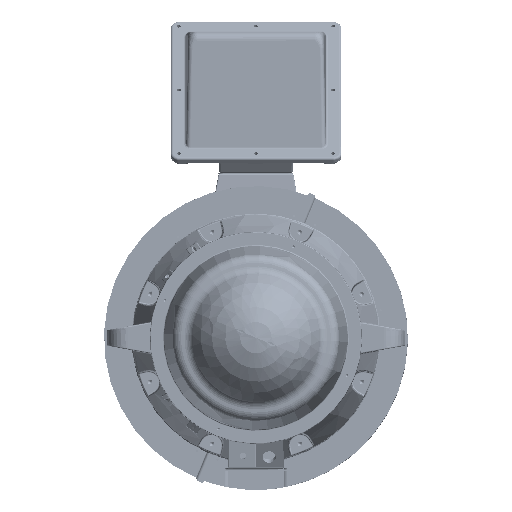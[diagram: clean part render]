
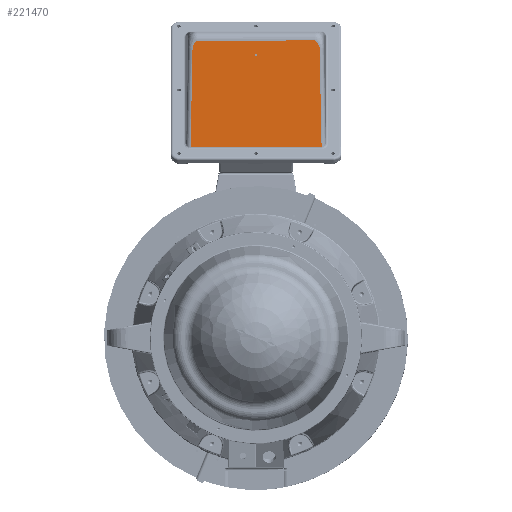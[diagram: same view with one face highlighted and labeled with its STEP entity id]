
A CAD part, top view. The second image highlights one B-rep face of the part: STEP entity #221470.
In plain terms, the highlighted planar face has unit normal (0, 0, 1) as drawn and (0, -1, 0) by its records, which use the part's own axes.
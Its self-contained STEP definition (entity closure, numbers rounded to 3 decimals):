
#219228=CARTESIAN_POINT('',(15.091,0.,
7.436));
#219248=DIRECTION('',(0.,0.,1.));
#219249=VECTOR('',#219248,14.872);
#219250=CARTESIAN_POINT('',(15.091,0.,
-7.436));
#219251=LINE('',#219250,#219249);
#219288=DIRECTION('',(1.,0.,-0.02));
#219289=VECTOR('',#219288,11.291);
#219290=CARTESIAN_POINT('',(3.802,0.,
-7.209));
#219291=LINE('',#219290,#219289);
#219348=DIRECTION('',(1.,0.,0.02));
#219349=VECTOR('',#219348,11.291);
#219350=CARTESIAN_POINT('',(3.802,0.,
7.209));
#219351=LINE('',#219350,#219349);
#219361=CARTESIAN_POINT('',(2.969,0.,
-6.701));
#219362=CARTESIAN_POINT('',(3.21,0.,
-6.92));
#219363=CARTESIAN_POINT('',(3.471,0.,
-7.203));
#219364=CARTESIAN_POINT('',(3.802,0.,
-7.209));
#219366=CARTESIAN_POINT('',(2.969,0.,
6.701));
#219367=CARTESIAN_POINT('',(3.21,0.,
6.92));
#219368=CARTESIAN_POINT('',(3.471,0.,
7.203));
#219369=CARTESIAN_POINT('',(3.802,0.,
7.209));
#219371=CARTESIAN_POINT('',(4.599,0.,
0.006));
#219372=DIRECTION('',(0.,-1.,0.));
#219373=DIRECTION('',(0.,0.,1.));
#219374=AXIS2_PLACEMENT_3D('',#219371,#219372,#219373);
#219376=CARTESIAN_POINT('',(4.599,0.,
0.006));
#219377=DIRECTION('',(0.,-1.,0.));
#219378=DIRECTION('',(0.,0.,-1.));
#219379=AXIS2_PLACEMENT_3D('',#219376,#219377,#219378);
#219403=DIRECTION('',(0.,0.,-1.));
#219404=VECTOR('',#219403,13.402);
#219405=CARTESIAN_POINT('',(2.969,0.,
6.701));
#219406=LINE('',#219405,#219404);
#220679=VERTEX_POINT('',#219366);
#220680=VERTEX_POINT('',#219369);
#220681=CARTESIAN_POINT('',(2.969,0.,
-6.701));
#220682=VERTEX_POINT('',#220681);
#220690=VERTEX_POINT('',#219364);
#220747=VERTEX_POINT('',#219228);
#220750=CARTESIAN_POINT('',(15.091,0.,
-7.436));
#220751=VERTEX_POINT('',#220750);
#220959=CARTESIAN_POINT('',(4.599,0.,
0.163));
#220960=CARTESIAN_POINT('',(4.599,0.,
-0.15));
#220961=VERTEX_POINT('',#220959);
#220962=VERTEX_POINT('',#220960);
#221448=CARTESIAN_POINT('',(1.969,0.,7.93));
#221449=DIRECTION('',(0.,-1.,0.));
#221450=DIRECTION('',(1.,0.,0.));
#221451=AXIS2_PLACEMENT_3D('',#221448,#221449,#221450);
#221452=PLANE('',#221451);
#221453=ORIENTED_EDGE('',*,*,#221282,.F.);
#221454=ORIENTED_EDGE('',*,*,#221351,.F.);
#221456=ORIENTED_EDGE('',*,*,#221455,.F.);
#221458=ORIENTED_EDGE('',*,*,#221457,.F.);
#221460=ORIENTED_EDGE('',*,*,#221459,.T.);
#221461=ORIENTED_EDGE('',*,*,#221440,.T.);
#221462=EDGE_LOOP('',(#221453,#221454,#221456,#221458,#221460,#221461));
#221463=FACE_OUTER_BOUND('',#221462,.F.);
#221465=ORIENTED_EDGE('',*,*,#221464,.T.);
#221467=ORIENTED_EDGE('',*,*,#221466,.T.);
#221468=EDGE_LOOP('',(#221465,#221467));
#221469=FACE_BOUND('',#221468,.F.);
#221470=ADVANCED_FACE('',(#221463,#221469),#221452,.T.);
#219365=B_SPLINE_CURVE_WITH_KNOTS('',3,(#219361,#219362,#219363,#219364),
.UNSPECIFIED.,.F.,.F.,(4,4),(0.,1.),.UNSPECIFIED.);
#219370=B_SPLINE_CURVE_WITH_KNOTS('',3,(#219366,#219367,#219368,#219369),
.UNSPECIFIED.,.F.,.F.,(4,4),(0.,1.),.UNSPECIFIED.);
#219375=CIRCLE('',#219374,0.157);
#219380=CIRCLE('',#219379,0.157);
#221282=EDGE_CURVE('',#220751,#220747,#219251,.T.);
#221351=EDGE_CURVE('',#220690,#220751,#219291,.T.);
#221440=EDGE_CURVE('',#220680,#220747,#219351,.T.);
#221455=EDGE_CURVE('',#220682,#220690,#219365,.T.);
#221457=EDGE_CURVE('',#220679,#220682,#219406,.T.);
#221459=EDGE_CURVE('',#220679,#220680,#219370,.T.);
#221464=EDGE_CURVE('',#220961,#220962,#219375,.T.);
#221466=EDGE_CURVE('',#220962,#220961,#219380,.T.);
